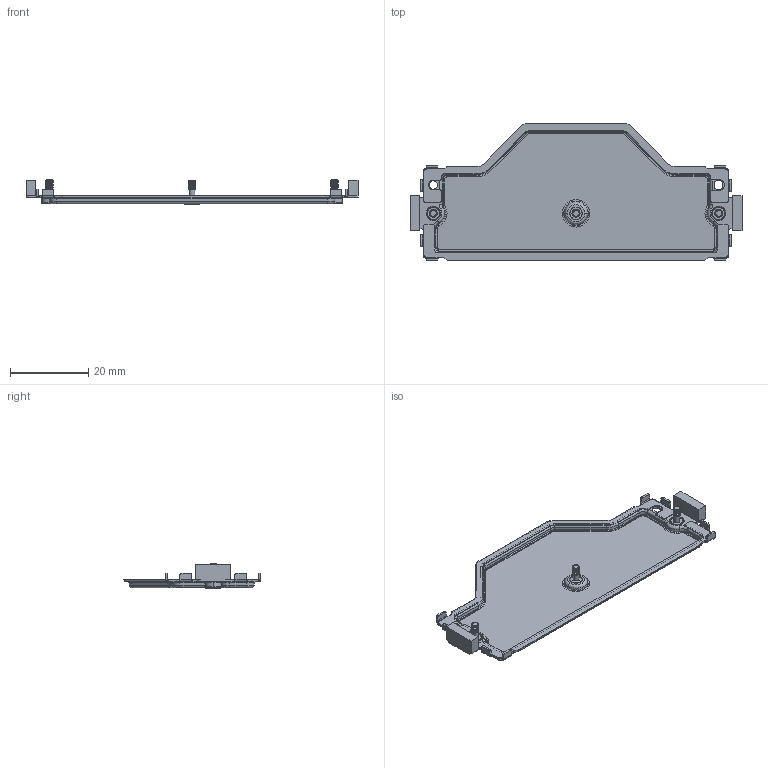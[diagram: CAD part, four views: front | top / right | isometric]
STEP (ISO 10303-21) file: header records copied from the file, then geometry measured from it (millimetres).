
FILE_DESCRIPTION((''),'2;1');
FILE_NAME('127A-001_C_1','2026-03-18T',('fros.liao'),(''),'CREO PARAMETRIC BY PTC INC, 2018360','CREO PARAMETRIC BY PTC INC, 2018360','');
FILE_SCHEMA(('CONFIG_CONTROL_DESIGN'));
Length unit declared in the file: millimetre
Products named in the file (1): 127A-001_C_1
Bounding box: 84.6 x 35.05 x 6.2 mm (x, y, z)
Volume: 1737.5 mm3; surface area: 5929.7 mm2
Topology: 1 solids, 1 shells, 787 faces, 2207 edges, 1441 vertices
Faces by surface type: plane 299, cylinder 291, torus 96, cone 71, bspline 18, sphere 12
Entity records: 29175 total; most frequent: CARTESIAN_POINT 8586, ORIENTED_EDGE 4408, DIRECTION 4371, EDGE_CURVE 2204, AXIS2_PLACEMENT_3D 1656, VERTEX_POINT 1441, VECTOR 1059, LINE 1059
